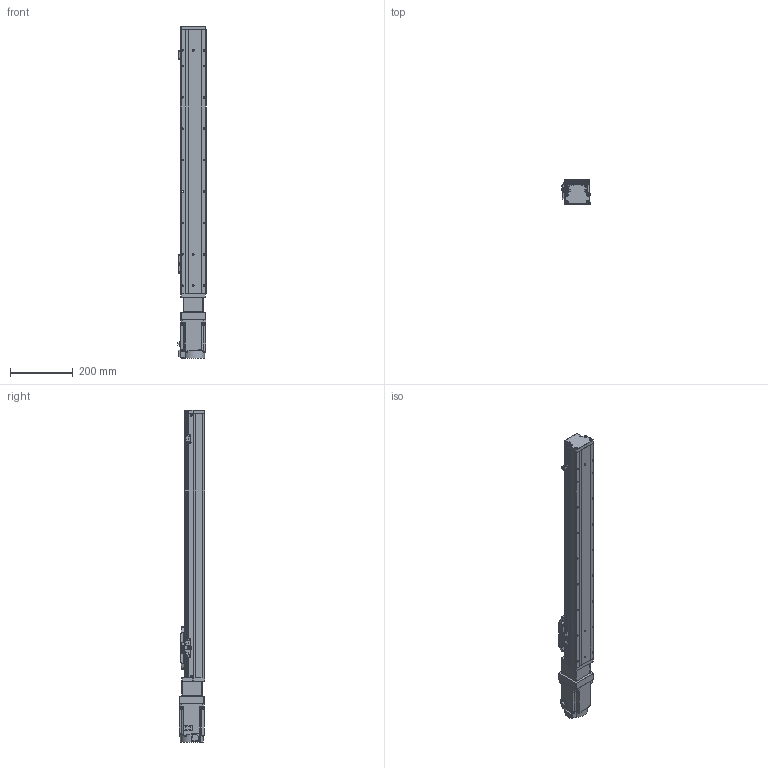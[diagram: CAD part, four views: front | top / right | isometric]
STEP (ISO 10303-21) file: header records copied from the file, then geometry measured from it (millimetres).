
FILE_DESCRIPTION (( 'STEP AP203' ), '1' );
FILE_NAME ('GTH8-650-BC-M75-C4.step', '2023-02-14T02:20:23', ( '微软用户' ), ( '微软中国' ), 'SwSTEP 2.0', 'SolidWorks 2020', '' );
FILE_SCHEMA (( 'CONFIG_CONTROL_DESIGN' ));
Length unit declared in the file: millimetre
Products named in the file (19): GBT96.1-2002 3×0.8; GTH80-022; BTH-M3X5X6; GTH80-001_650; GBT 70.1-M3℅6; CTHA86-006-1_CTHA86-006-4; GTH80-003; GBT 70.1-M4×16; CTHA86-013; hg-kn73j_-s100; GTH80-004; GTH80-028; CTHA86-027; GTH8-650-BC-M75-C4; GTH80-006; GTH50-024; GTH80-013; GTH50-023; GBT 70.3-M3℅6
Assembly tree (60 placements, depth 2):
  GTH8-650-BC-M75-C4
    GTH80-001_650
    GTH80-003
    GTH80-004
    GTH80-006
    GTH80-013
    GBT 70.3-M3℅6  x6
    GTH80-022
    GBT 70.1-M3℅6  x14
    GBT 70.1-M4×16  x8
    GTH80-028  x2
    GTH50-024  x3
    GTH50-023  x3
    GBT96.1-2002 3×0.8  x6
    BTH-M3X5X6  x8
    CTHA86-006-1_CTHA86-006-4
    CTHA86-013
    CTHA86-027
    hg-kn73j_-s100
Bounding box: 89.8 x 81.72 x 1057.2 mm (x, y, z)
Volume: 4862729.1 mm3; surface area: 493953.8 mm2
Topology: 62 solids, 62 shells, 2261 faces, 5210 edges, 3176 vertices
Faces by surface type: plane 1185, cylinder 619, cone 285, torus 162, sphere 8, bspline 2
Entity records: 39785 total; most frequent: DIRECTION 6559, CARTESIAN_POINT 6554, ORIENTED_EDGE 6010, EDGE_CURVE 3005, AXIS2_PLACEMENT_3D 2299, VECTOR 1961, LINE 1961, VERTEX_POINT 1889
